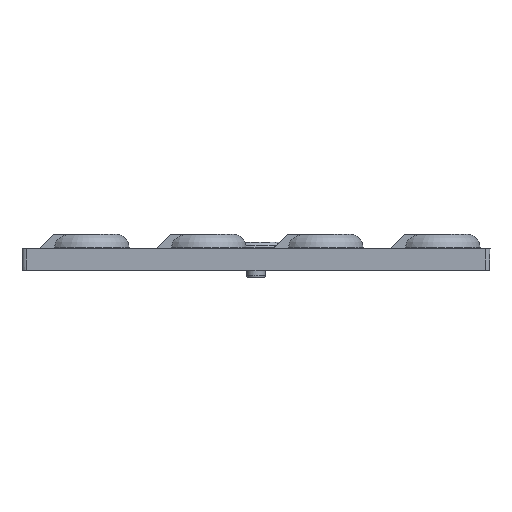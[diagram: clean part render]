
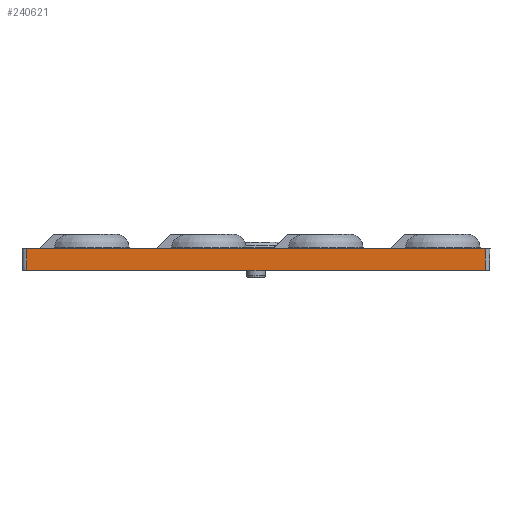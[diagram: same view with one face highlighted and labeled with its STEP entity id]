
A CAD part, front view. The second image highlights one B-rep face of the part: STEP entity #240621.
In plain terms, the highlighted planar face has unit normal (0, -1, -0.018).
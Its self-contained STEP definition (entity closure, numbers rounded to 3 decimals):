
#146936=CARTESIAN_POINT(' ',(-24.5,-25.,2.28));
#146937=VERTEX_POINT(' ',#146936);
#146951=CARTESIAN_POINT(' ',(24.5,-25.,2.28));
#146956=DIRECTION(' ',(-1.,0.,0.));
#146961=VECTOR(' ',#146956,1.);
#146966=LINE('',#146951,#146961);
#146971=CARTESIAN_POINT(' ',(24.5,-25.,2.28));
#146972=VERTEX_POINT(' ',#146971);
#146976=EDGE_CURVE(' ',#146972,#146937,#146966,.T.);
#231051=CARTESIAN_POINT(' ',(24.5,-24.96,0.));
#231052=VERTEX_POINT(' ',#231051);
#231066=CARTESIAN_POINT(' ',(24.5,-24.96,0.));
#231071=DIRECTION(' ',(-1.,0.,0.));
#231076=VECTOR(' ',#231071,1.);
#231081=LINE('',#231066,#231076);
#231086=CARTESIAN_POINT(' ',(-24.5,-24.96,0.));
#231087=VERTEX_POINT(' ',#231086);
#231091=EDGE_CURVE(' ',#231052,#231087,#231081,.T.);
#240316=CARTESIAN_POINT(' ',(-24.5,-25.,2.28));
#240321=DIRECTION(' ',(0.,0.017,-1.));
#240326=VECTOR(' ',#240321,1.);
#240331=LINE('',#240316,#240326);
#240336=EDGE_CURVE(' ',#146937,#231087,#240331,.T.);
#240541=DIRECTION(' ',(0.,-1.,-0.017));
#240546=CARTESIAN_POINT(' ',(24.5,-24.96,0.));
#240551=DIRECTION(' ',(0.,-0.017,1.));
#240556=AXIS2_PLACEMENT_3D(' ',#240546,#240541,#240551);
#240561=PLANE('',#240556);
#240566=CARTESIAN_POINT(' ',(24.5,-24.96,0.));
#240571=DIRECTION(' ',(0.,-0.017,1.));
#240576=VECTOR(' ',#240571,1.);
#240581=LINE('',#240566,#240576);
#240586=EDGE_CURVE(' ',#231052,#146972,#240581,.T.);
#240591=ORIENTED_EDGE(' ',*,*,#240586,.T.);
#240596=ORIENTED_EDGE(' ',*,*,#146976,.T.);
#240601=ORIENTED_EDGE(' ',*,*,#240336,.T.);
#240606=ORIENTED_EDGE(' ',*,*,#231091,.F.);
#240611=EDGE_LOOP(' ',(#240591,#240596,#240601,#240606));
#240616=FACE_OUTER_BOUND(' ',#240611,.T.);
#240621=ADVANCED_FACE('',(#240616),#240561,.T.);
